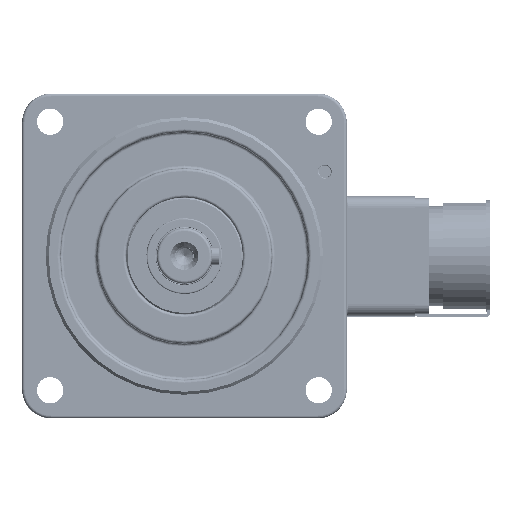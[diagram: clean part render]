
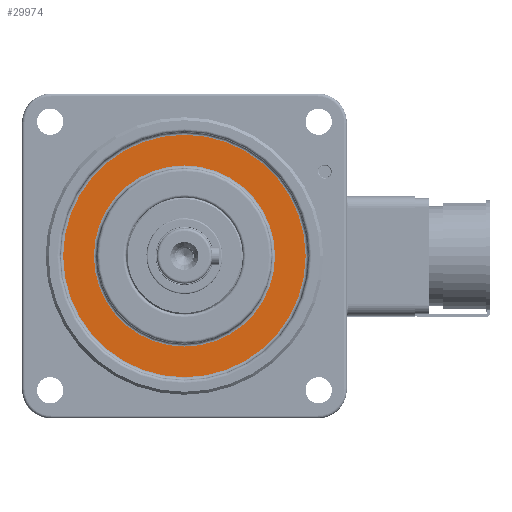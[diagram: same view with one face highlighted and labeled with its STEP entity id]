
A CAD part, left-side view. The second image highlights one B-rep face of the part: STEP entity #29974.
In plain terms, the highlighted planar face has unit normal (-1, 0, 0) as drawn and (1, 0, 0) by its records, which use the part's own axes.
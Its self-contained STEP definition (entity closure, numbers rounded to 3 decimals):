
#2997 = CARTESIAN_POINT ( 'NONE',  ( 23.5, 0., 0. ) ) ;
#8312 = ORIENTED_EDGE ( 'NONE', *, *, #107022, .T. ) ;
#11834 = DIRECTION ( 'NONE',  ( 0., 0., 1. ) ) ;
#11894 = ORIENTED_EDGE ( 'NONE', *, *, #75242, .T. ) ;
#12851 = AXIS2_PLACEMENT_3D ( 'NONE', #58966, #95732, #13094 ) ;
#13094 = DIRECTION ( 'NONE',  ( 0., 0., 1. ) ) ;
#13805 = ORIENTED_EDGE ( 'NONE', *, *, #16581, .T. ) ;
#14632 = CIRCLE ( 'NONE', #12851, 41.5 ) ;
#16520 = CARTESIAN_POINT ( 'NONE',  ( 23.5, 0., 41.5 ) ) ;
#16581 = EDGE_CURVE ( 'NONE', #27651, #36705, #14632, .T. ) ;
#19103 = CARTESIAN_POINT ( 'NONE',  ( 23.5, 0., -41.5 ) ) ;
#20533 = DIRECTION ( 'NONE',  ( 0., 0., 1. ) ) ;
#23599 = CARTESIAN_POINT ( 'NONE',  ( 23.5, 42.5, 0. ) ) ;
#25833 = ORIENTED_EDGE ( 'NONE', *, *, #76437, .T. ) ;
#27651 = VERTEX_POINT ( 'NONE', #19103 ) ;
#27756 = AXIS2_PLACEMENT_3D ( 'NONE', #66419, #103187, #20533 ) ;
#28024 = CARTESIAN_POINT ( 'NONE',  ( 23.5, 0., -31. ) ) ;
#29974 = ADVANCED_FACE ( 'NONE', ( #32671, #69465 ), #106229, .F. ) ;
#32671 = FACE_BOUND ( 'NONE', #44565, .T. ) ;
#36705 = VERTEX_POINT ( 'NONE', #16520 ) ;
#38899 = VERTEX_POINT ( 'NONE', #28024 ) ;
#39808 = DIRECTION ( 'NONE',  ( -1., 0., 0. ) ) ;
#40743 = VERTEX_POINT ( 'NONE', #115723 ) ;
#44565 = EDGE_LOOP ( 'NONE', ( #11894, #8312 ) ) ;
#49915 = CIRCLE ( 'NONE', #65307, 31. ) ;
#50663 = EDGE_LOOP ( 'NONE', ( #25833, #13805 ) ) ;
#50748 = CIRCLE ( 'NONE', #118124, 31. ) ;
#57729 = CARTESIAN_POINT ( 'NONE',  ( 23.5, 0., 0. ) ) ;
#58966 = CARTESIAN_POINT ( 'NONE',  ( 23.5, 0., 0. ) ) ;
#60399 = DIRECTION ( 'NONE',  ( -1., 0., 0. ) ) ;
#65307 = AXIS2_PLACEMENT_3D ( 'NONE', #57729, #94500, #11834 ) ;
#66138 = AXIS2_PLACEMENT_3D ( 'NONE', #23599, #60399, #97191 ) ;
#66419 = CARTESIAN_POINT ( 'NONE',  ( 23.5, 0., 0. ) ) ;
#69465 = FACE_OUTER_BOUND ( 'NONE', #50663, .T. ) ;
#75242 = EDGE_CURVE ( 'NONE', #40743, #38899, #50748, .T. ) ;
#76437 = EDGE_CURVE ( 'NONE', #36705, #27651, #79778, .T. ) ;
#76647 = DIRECTION ( 'NONE',  ( 0., 0., 1. ) ) ;
#79778 = CIRCLE ( 'NONE', #27756, 41.5 ) ;
#94500 = DIRECTION ( 'NONE',  ( -1., 0., 0. ) ) ;
#95732 = DIRECTION ( 'NONE',  ( 1., 0., 0. ) ) ;
#97191 = DIRECTION ( 'NONE',  ( 0., 0., 1. ) ) ;
#103187 = DIRECTION ( 'NONE',  ( 1., 0., 0. ) ) ;
#106229 = PLANE ( 'NONE',  #66138 ) ;
#107022 = EDGE_CURVE ( 'NONE', #38899, #40743, #49915, .T. ) ;
#115723 = CARTESIAN_POINT ( 'NONE',  ( 23.5, 0., 31. ) ) ;
#118124 = AXIS2_PLACEMENT_3D ( 'NONE', #2997, #39808, #76647 ) ;
